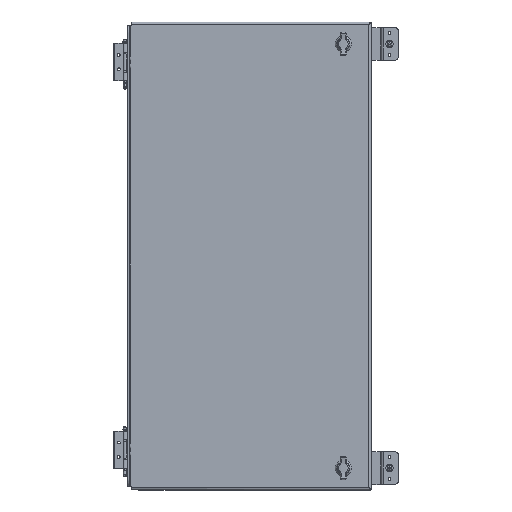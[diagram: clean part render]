
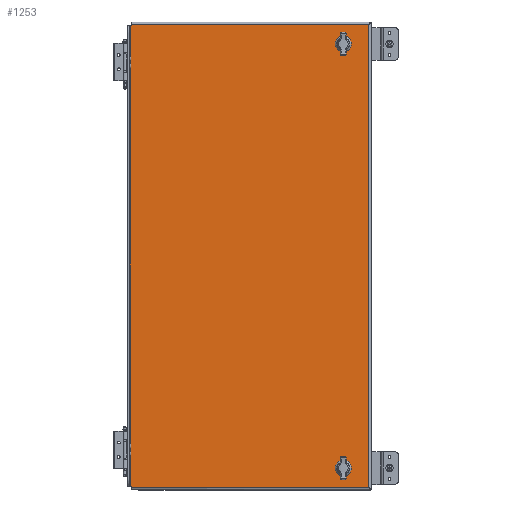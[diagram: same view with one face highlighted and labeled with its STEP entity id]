
A CAD part, top view. The second image highlights one B-rep face of the part: STEP entity #1253.
In plain terms, the highlighted planar face has unit normal (0, 0, 1).
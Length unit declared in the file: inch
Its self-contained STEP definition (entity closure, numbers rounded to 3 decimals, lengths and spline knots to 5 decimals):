
#2=DIRECTION('',(1.,0.,0.));
#3=VECTOR('',#2,0.39715);
#4=CARTESIAN_POINT('',(6.08292,14.896,0.828));
#5=LINE('',#4,#3);
#6=CARTESIAN_POINT('',(6.2815,14.5,0.828));
#7=DIRECTION('',(0.,0.,1.));
#8=DIRECTION('',(-0.448,0.894,0.));
#9=AXIS2_PLACEMENT_3D('',#6,#7,#8);
#11=DIRECTION('',(0.,1.,0.));
#12=VECTOR('',#11,0.39715);
#13=CARTESIAN_POINT('',(5.8855,14.30142,0.828));
#14=LINE('',#13,#12);
#15=CARTESIAN_POINT('',(6.2815,14.5,0.828));
#16=DIRECTION('',(0.,0.,1.));
#17=DIRECTION('',(-0.894,-0.448,0.));
#18=AXIS2_PLACEMENT_3D('',#15,#16,#17);
#20=DIRECTION('',(-1.,0.,0.));
#21=VECTOR('',#20,0.39715);
#22=CARTESIAN_POINT('',(6.48008,14.104,0.828));
#23=LINE('',#22,#21);
#24=CARTESIAN_POINT('',(6.2815,14.5,0.828));
#25=DIRECTION('',(0.,0.,1.));
#26=DIRECTION('',(0.448,-0.894,0.));
#27=AXIS2_PLACEMENT_3D('',#24,#25,#26);
#29=DIRECTION('',(0.,-1.,0.));
#30=VECTOR('',#29,0.39715);
#31=CARTESIAN_POINT('',(6.6775,14.69858,0.828));
#32=LINE('',#31,#30);
#33=CARTESIAN_POINT('',(6.2815,14.5,0.828));
#34=DIRECTION('',(0.,0.,1.));
#35=DIRECTION('',(0.894,0.448,0.));
#36=AXIS2_PLACEMENT_3D('',#33,#34,#35);
#38=CARTESIAN_POINT('',(6.2815,-14.5,0.828));
#39=DIRECTION('',(0.,0.,1.));
#40=DIRECTION('',(-0.894,-0.448,0.));
#41=AXIS2_PLACEMENT_3D('',#38,#39,#40);
#43=DIRECTION('',(-1.,0.,0.));
#44=VECTOR('',#43,0.39715);
#45=CARTESIAN_POINT('',(6.48008,-14.896,0.828));
#46=LINE('',#45,#44);
#47=CARTESIAN_POINT('',(6.2815,-14.5,0.828));
#48=DIRECTION('',(0.,0.,1.));
#49=DIRECTION('',(0.448,-0.894,0.));
#50=AXIS2_PLACEMENT_3D('',#47,#48,#49);
#52=DIRECTION('',(0.,-1.,0.));
#53=VECTOR('',#52,0.39715);
#54=CARTESIAN_POINT('',(6.6775,-14.30142,0.828));
#55=LINE('',#54,#53);
#56=CARTESIAN_POINT('',(6.2815,-14.5,0.828));
#57=DIRECTION('',(0.,0.,1.));
#58=DIRECTION('',(0.894,0.448,0.));
#59=AXIS2_PLACEMENT_3D('',#56,#57,#58);
#61=DIRECTION('',(1.,0.,0.));
#62=VECTOR('',#61,0.39715);
#63=CARTESIAN_POINT('',(6.08292,-14.104,0.828));
#64=LINE('',#63,#62);
#65=CARTESIAN_POINT('',(6.2815,-14.5,0.828));
#66=DIRECTION('',(0.,0.,1.));
#67=DIRECTION('',(-0.448,0.894,0.));
#68=AXIS2_PLACEMENT_3D('',#65,#66,#67);
#70=DIRECTION('',(0.,1.,0.));
#71=VECTOR('',#70,0.39715);
#72=CARTESIAN_POINT('',(5.8855,-14.69858,0.828));
#73=LINE('',#72,#71);
#74=DIRECTION('',(0.,-1.,0.));
#75=VECTOR('',#74,0.094);
#76=CARTESIAN_POINT('',(-8.1875,-15.75,0.828));
#77=LINE('',#76,#75);
#78=DIRECTION('',(1.,0.,0.));
#79=VECTOR('',#78,0.092);
#80=CARTESIAN_POINT('',(-8.2795,-15.75,0.828));
#81=LINE('',#80,#79);
#82=DIRECTION('',(-1.,0.,0.));
#83=VECTOR('',#82,0.092);
#84=CARTESIAN_POINT('',(-8.1875,15.75,0.828));
#85=LINE('',#84,#83);
#86=DIRECTION('',(0.,-1.,0.));
#87=VECTOR('',#86,0.094);
#88=CARTESIAN_POINT('',(-8.1875,15.844,0.828));
#89=LINE('',#88,#87);
#403=DIRECTION('',(0.,1.,0.));
#404=VECTOR('',#403,31.688);
#405=CARTESIAN_POINT('',(8.0315,-15.844,0.828));
#406=LINE('',#405,#404);
#439=DIRECTION('',(-1.,0.,0.));
#440=VECTOR('',#439,16.219);
#441=CARTESIAN_POINT('',(8.0315,15.844,0.828));
#442=LINE('',#441,#440);
#767=DIRECTION('',(0.,-1.,0.));
#768=VECTOR('',#767,31.5);
#769=CARTESIAN_POINT('',(-8.2795,15.75,0.828));
#770=LINE('',#769,#768);
#792=DIRECTION('',(1.,0.,0.));
#793=VECTOR('',#792,16.219);
#794=CARTESIAN_POINT('',(-8.1875,-15.844,0.828));
#795=LINE('',#794,#793);
#938=CARTESIAN_POINT('',(-8.1875,15.844,0.828));
#940=VERTEX_POINT('',#938);
#942=CARTESIAN_POINT('',(-8.1875,-15.844,0.828));
#944=VERTEX_POINT('',#942);
#946=CARTESIAN_POINT('',(8.0315,-15.844,0.828));
#947=CARTESIAN_POINT('',(8.0315,15.844,0.828));
#948=VERTEX_POINT('',#946);
#949=VERTEX_POINT('',#947);
#971=CARTESIAN_POINT('',(-8.1875,15.75,0.828));
#973=VERTEX_POINT('',#971);
#975=CARTESIAN_POINT('',(-8.1875,-15.75,0.828));
#977=VERTEX_POINT('',#975);
#990=CARTESIAN_POINT('',(-8.2795,-15.75,0.828));
#991=VERTEX_POINT('',#990);
#992=CARTESIAN_POINT('',(-8.2795,15.75,0.828));
#993=VERTEX_POINT('',#992);
#1074=CARTESIAN_POINT('',(6.08292,14.896,0.828));
#1075=CARTESIAN_POINT('',(6.48008,14.896,0.828));
#1076=VERTEX_POINT('',#1074);
#1077=VERTEX_POINT('',#1075);
#1078=CARTESIAN_POINT('',(6.6775,14.69858,0.828));
#1079=VERTEX_POINT('',#1078);
#1080=CARTESIAN_POINT('',(6.6775,14.30142,0.828));
#1081=VERTEX_POINT('',#1080);
#1082=CARTESIAN_POINT('',(6.48008,14.104,0.828));
#1083=VERTEX_POINT('',#1082);
#1084=CARTESIAN_POINT('',(6.08292,14.104,0.828));
#1085=VERTEX_POINT('',#1084);
#1086=CARTESIAN_POINT('',(5.8855,14.30142,0.828));
#1087=VERTEX_POINT('',#1086);
#1088=CARTESIAN_POINT('',(5.8855,14.69858,0.828));
#1089=VERTEX_POINT('',#1088);
#1090=CARTESIAN_POINT('',(5.8855,-14.69858,0.828));
#1091=CARTESIAN_POINT('',(6.08292,-14.896,0.828));
#1092=VERTEX_POINT('',#1090);
#1093=VERTEX_POINT('',#1091);
#1094=CARTESIAN_POINT('',(5.8855,-14.30142,0.828));
#1095=VERTEX_POINT('',#1094);
#1096=CARTESIAN_POINT('',(6.08292,-14.104,0.828));
#1097=VERTEX_POINT('',#1096);
#1098=CARTESIAN_POINT('',(6.48008,-14.104,0.828));
#1099=VERTEX_POINT('',#1098);
#1100=CARTESIAN_POINT('',(6.6775,-14.30142,0.828));
#1101=VERTEX_POINT('',#1100);
#1102=CARTESIAN_POINT('',(6.6775,-14.69858,0.828));
#1103=VERTEX_POINT('',#1102);
#1104=CARTESIAN_POINT('',(6.48008,-14.896,0.828));
#1105=VERTEX_POINT('',#1104);
#1194=CARTESIAN_POINT('',(0.,0.,0.828));
#1195=DIRECTION('',(0.,0.,1.));
#1196=DIRECTION('',(1.,0.,0.));
#1197=AXIS2_PLACEMENT_3D('',#1194,#1195,#1196);
#1198=PLANE('',#1197);
#1200=ORIENTED_EDGE('',*,*,#1199,.F.);
#1202=ORIENTED_EDGE('',*,*,#1201,.F.);
#1204=ORIENTED_EDGE('',*,*,#1203,.F.);
#1206=ORIENTED_EDGE('',*,*,#1205,.F.);
#1208=ORIENTED_EDGE('',*,*,#1207,.F.);
#1210=ORIENTED_EDGE('',*,*,#1209,.F.);
#1212=ORIENTED_EDGE('',*,*,#1211,.F.);
#1214=ORIENTED_EDGE('',*,*,#1213,.F.);
#1215=EDGE_LOOP('',(#1200,#1202,#1204,#1206,#1208,#1210,#1212,#1214));
#1216=FACE_OUTER_BOUND('',#1215,.F.);
#1218=ORIENTED_EDGE('',*,*,#1217,.F.);
#1220=ORIENTED_EDGE('',*,*,#1219,.T.);
#1222=ORIENTED_EDGE('',*,*,#1221,.F.);
#1224=ORIENTED_EDGE('',*,*,#1223,.T.);
#1226=ORIENTED_EDGE('',*,*,#1225,.F.);
#1228=ORIENTED_EDGE('',*,*,#1227,.T.);
#1230=ORIENTED_EDGE('',*,*,#1229,.F.);
#1232=ORIENTED_EDGE('',*,*,#1231,.T.);
#1233=EDGE_LOOP('',(#1218,#1220,#1222,#1224,#1226,#1228,#1230,#1232));
#1234=FACE_BOUND('',#1233,.F.);
#1236=ORIENTED_EDGE('',*,*,#1235,.T.);
#1238=ORIENTED_EDGE('',*,*,#1237,.F.);
#1240=ORIENTED_EDGE('',*,*,#1239,.T.);
#1242=ORIENTED_EDGE('',*,*,#1241,.F.);
#1244=ORIENTED_EDGE('',*,*,#1243,.T.);
#1246=ORIENTED_EDGE('',*,*,#1245,.F.);
#1248=ORIENTED_EDGE('',*,*,#1247,.T.);
#1250=ORIENTED_EDGE('',*,*,#1249,.F.);
#1251=EDGE_LOOP('',(#1236,#1238,#1240,#1242,#1244,#1246,#1248,#1250));
#1252=FACE_BOUND('',#1251,.F.);
#1253=ADVANCED_FACE('',(#1216,#1234,#1252),#1198,.T.);
#10=CIRCLE('',#9,0.443);
#19=CIRCLE('',#18,0.443);
#28=CIRCLE('',#27,0.443);
#37=CIRCLE('',#36,0.443);
#42=CIRCLE('',#41,0.443);
#51=CIRCLE('',#50,0.443);
#60=CIRCLE('',#59,0.443);
#69=CIRCLE('',#68,0.443);
#1199=EDGE_CURVE('',#944,#948,#795,.T.);
#1201=EDGE_CURVE('',#977,#944,#77,.T.);
#1203=EDGE_CURVE('',#991,#977,#81,.T.);
#1205=EDGE_CURVE('',#993,#991,#770,.T.);
#1207=EDGE_CURVE('',#973,#993,#85,.T.);
#1209=EDGE_CURVE('',#940,#973,#89,.T.);
#1211=EDGE_CURVE('',#949,#940,#442,.T.);
#1213=EDGE_CURVE('',#948,#949,#406,.T.);
#1217=EDGE_CURVE('',#1076,#1077,#5,.T.);
#1219=EDGE_CURVE('',#1076,#1089,#10,.T.);
#1221=EDGE_CURVE('',#1087,#1089,#14,.T.);
#1223=EDGE_CURVE('',#1087,#1085,#19,.T.);
#1225=EDGE_CURVE('',#1083,#1085,#23,.T.);
#1227=EDGE_CURVE('',#1083,#1081,#28,.T.);
#1229=EDGE_CURVE('',#1079,#1081,#32,.T.);
#1231=EDGE_CURVE('',#1079,#1077,#37,.T.);
#1235=EDGE_CURVE('',#1092,#1093,#42,.T.);
#1237=EDGE_CURVE('',#1105,#1093,#46,.T.);
#1239=EDGE_CURVE('',#1105,#1103,#51,.T.);
#1241=EDGE_CURVE('',#1101,#1103,#55,.T.);
#1243=EDGE_CURVE('',#1101,#1099,#60,.T.);
#1245=EDGE_CURVE('',#1097,#1099,#64,.T.);
#1247=EDGE_CURVE('',#1097,#1095,#69,.T.);
#1249=EDGE_CURVE('',#1092,#1095,#73,.T.);
